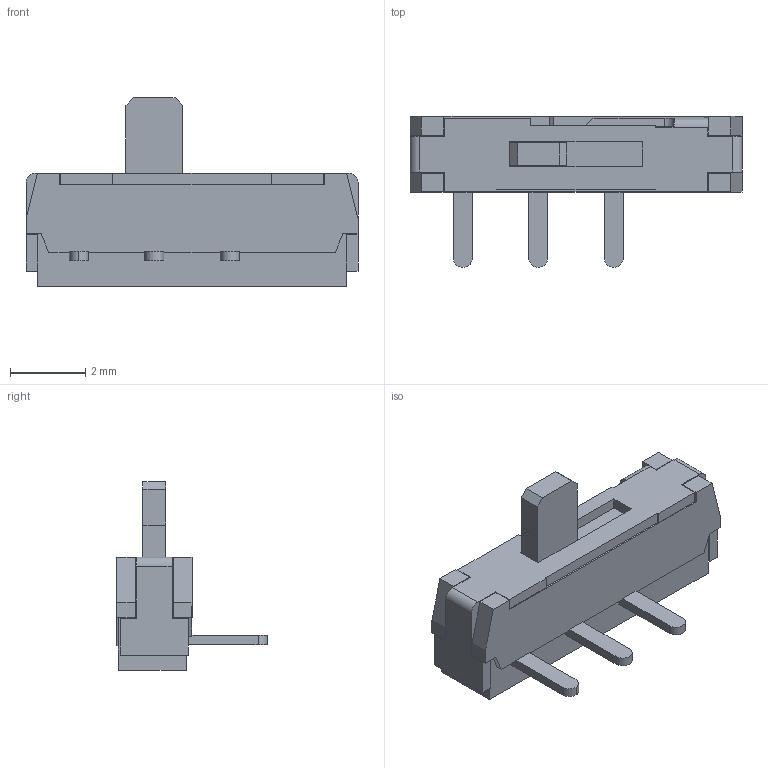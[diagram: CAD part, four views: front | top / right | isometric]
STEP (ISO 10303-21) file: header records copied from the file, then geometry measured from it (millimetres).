
FILE_DESCRIPTION (( 'STEP AP214' ), '1' );
FILE_NAME ('SSSS710100STEP.STEP', '2014-12-01T02:28:04', ( 'user' ), ( 'Hewlett-Packard Company' ), 'SwSTEP 2.0', 'SolidWorks 2014', '' );
FILE_SCHEMA (( 'AUTOMOTIVE_DESIGN' ));
Length unit declared in the file: millimetre
Products named in the file (1): SSSS710100STEP
Bounding box: 8.8 x 4 x 5 mm (x, y, z)
Volume: 50.6 mm3; surface area: 134.9 mm2
Topology: 1 solids, 1 shells, 139 faces, 395 edges, 255 vertices
Faces by surface type: plane 129, cylinder 10
Entity records: 5639 total; most frequent: ORIENTED_EDGE 790, CARTESIAN_POINT 790, DIRECTION 695, EDGE_CURVE 395, LINE 375, VECTOR 375, VERTEX_POINT 255, AXIS2_PLACEMENT_3D 160
